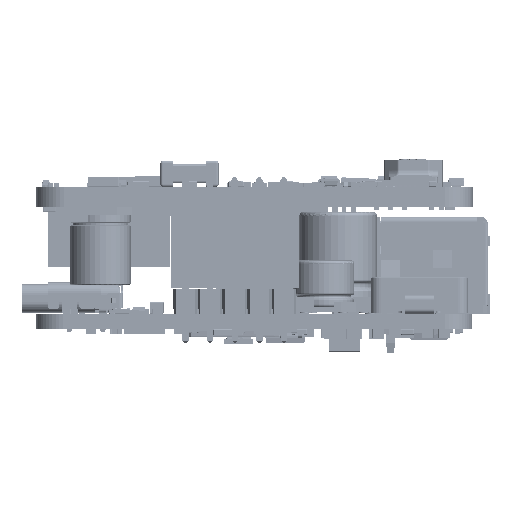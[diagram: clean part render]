
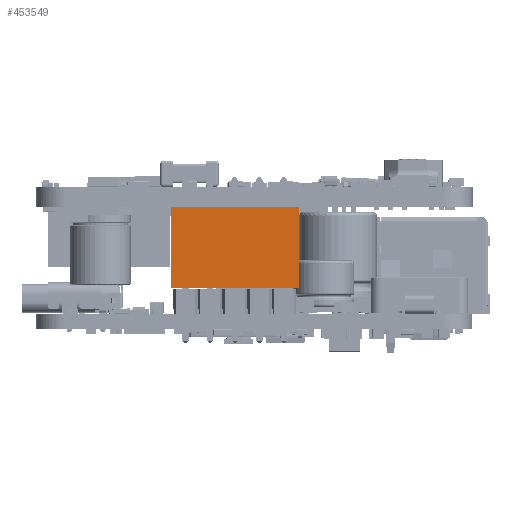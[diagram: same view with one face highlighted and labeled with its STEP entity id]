
A CAD part, left-side view. The second image highlights one B-rep face of the part: STEP entity #453549.
In plain terms, the highlighted planar face has unit normal (-1, 0, 0) as drawn and (0, 1, 0) by its records, which use the part's own axes.
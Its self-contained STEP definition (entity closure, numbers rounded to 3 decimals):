
#57413=FACE_OUTER_BOUND('',#84748,.T.);
#84748=EDGE_LOOP('',(#388451,#388452,#388453,#388454));
#128526=LINE('',#941568,#172955);
#128568=LINE('',#941651,#172997);
#128569=LINE('',#941653,#172998);
#128570=LINE('',#941654,#172999);
#172955=VECTOR('',#601302,1.);
#172997=VECTOR('',#601348,1.);
#172998=VECTOR('',#601349,1.);
#172999=VECTOR('',#601350,1.);
#211363=VERTEX_POINT('',#941565);
#211364=VERTEX_POINT('',#941567);
#211403=VERTEX_POINT('',#941650);
#211404=VERTEX_POINT('',#941652);
#270575=EDGE_CURVE('',#211363,#211364,#128526,.T.);
#270617=EDGE_CURVE('',#211403,#211363,#128568,.T.);
#270618=EDGE_CURVE('',#211404,#211403,#128569,.T.);
#270619=EDGE_CURVE('',#211364,#211404,#128570,.T.);
#388451=ORIENTED_EDGE('',*,*,#270617,.F.);
#388452=ORIENTED_EDGE('',*,*,#270618,.F.);
#388453=ORIENTED_EDGE('',*,*,#270619,.F.);
#388454=ORIENTED_EDGE('',*,*,#270575,.F.);
#414292=PLANE('',#491510);
#453549=ADVANCED_FACE('',(#57413),#414292,.F.);
#491510=AXIS2_PLACEMENT_3D('',#941649,#601346,#601347);
#601302=DIRECTION('',(1.,0.,0.));
#601346=DIRECTION('center_axis',(0.,-1.,
0.));
#601347=DIRECTION('ref_axis',(0.,0.,
-1.));
#601348=DIRECTION('',(0.,0.,-1.));
#601349=DIRECTION('',(-1.,0.,0.));
#601350=DIRECTION('',(0.,0.,1.));
#941565=CARTESIAN_POINT('',(-6.549,2.54,-10.486));
#941567=CARTESIAN_POINT('',(6.651,2.54,-10.486));
#941568=CARTESIAN_POINT('',(-6.549,2.54,-10.486));
#941649=CARTESIAN_POINT('Origin',(0.051,2.54,-6.286));
#941650=CARTESIAN_POINT('',(-6.549,2.54,-2.086));
#941651=CARTESIAN_POINT('',(-6.549,2.54,-2.086));
#941652=CARTESIAN_POINT('',(6.651,2.54,-2.086));
#941653=CARTESIAN_POINT('',(6.651,2.54,-2.086));
#941654=CARTESIAN_POINT('',(6.651,2.54,-10.486));
